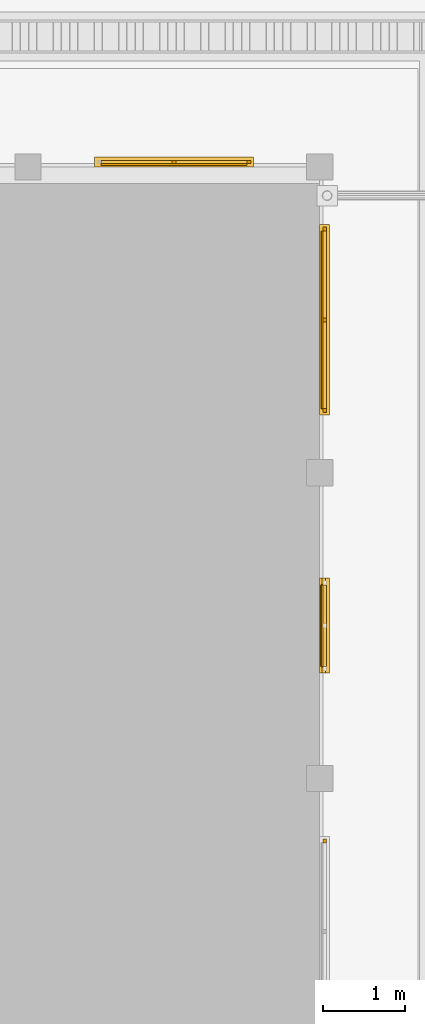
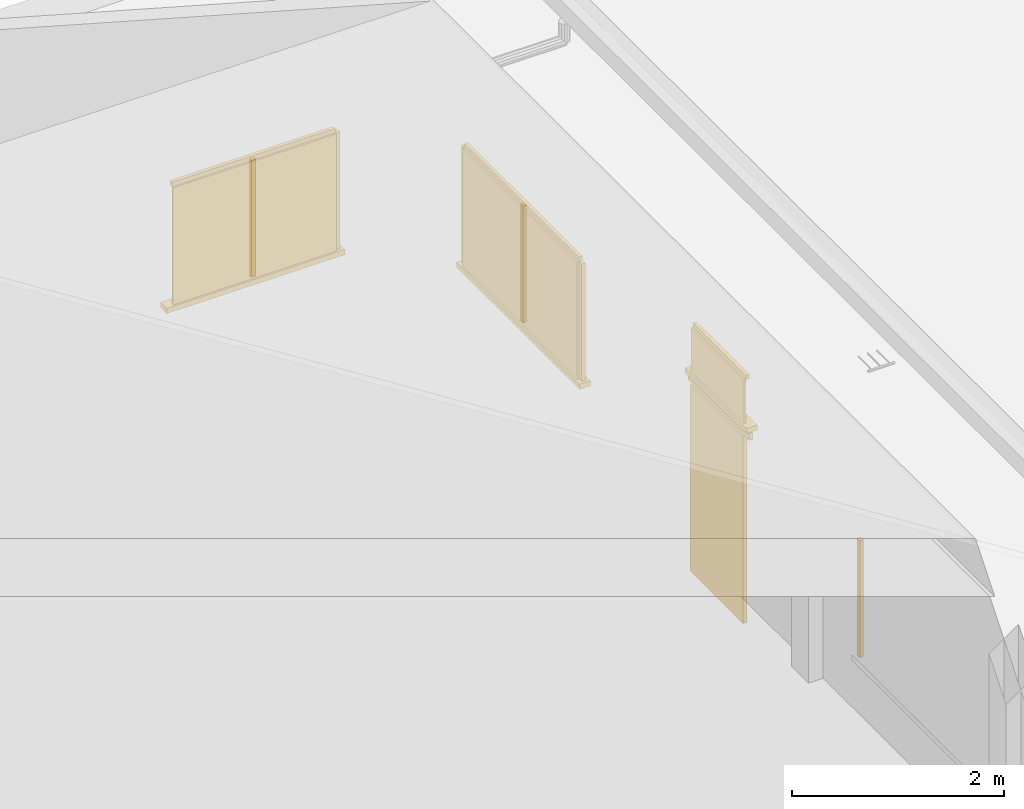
# One storey, part 44 of 166: 15 windows, 2 doors.
"""IFC2X3 building model written with IfcOpenShell, lengths in metres."""

from ifc_helpers import new_model, si_unit, origin, origin_with_axes, place, context, subcontext, project, spatial, faceted_brep, element, save


model = new_model("IFC2X3")

# Units and contexts
model_context = context("Model", 3, precision=1e-05, world=origin_with_axes())
body_context = subcontext(model_context, "Body", "Model", "MODEL_VIEW")
ifc_project = project(units=[si_unit("LENGTHUNIT", "METRE"), si_unit("AREAUNIT", "SQUARE_METRE"), si_unit("VOLUMEUNIT", "CUBIC_METRE"), si_unit("PLANEANGLEUNIT", "RADIAN")], contexts=[model_context])

# Site, building, storey
site_placement = place(None, origin_with_axes())
site = spatial("IfcSite", under=ifc_project, at=site_placement, Name="Predio Los Mangos - Morales, San Martín", CompositionType="ELEMENT")
building_placement = place(site_placement, origin())
building = spatial("IfcBuilding", under=site, at=building_placement, Name="Hogar de Refugio Temporal", CompositionType="ELEMENT")
storey_placement = place(building_placement, origin())
storey = spatial("IfcBuildingStorey", under=building, at=storey_placement, Name="NIVEL 1 (NPT +0.00)", CompositionType="ELEMENT", Elevation=0.0)

# Windows
window_1_placement = place(storey_placement, origin())
element("IfcWindow", 1, at=window_1_placement, inside=storey, Name="E-01_vg4_vid", ObjectType="Ventana", context=body_context, shape_type="Brep", body=[
    faceted_brep([(28.93, 48.72, 1.05), (28.93, 48.74, 1.05), (30.71, 48.74, 1.05), (30.71, 48.72, 1.05), (28.93, 48.72, 2.4), (30.71, 48.72, 2.4), (30.71, 48.74, 2.4), (28.93, 48.74, 2.4)], [[[0, 1, 2, 3]], [[4, 5, 6, 7]], [[0, 3, 5, 4]], [[3, 2, 6, 5]], [[2, 1, 7, 6]], [[1, 0, 4, 7]]]),
])
window_2_placement = place(storey_placement, origin())
element("IfcWindow", 2, at=window_2_placement, inside=storey, Name="E-01_vg4_m", ObjectType="Ventana", context=body_context, shape_type="Brep", body=[
    faceted_brep([(30.71, 48.74, 1.05), (30.71, 48.78, 1.05), (30.76, 48.78, 1.05), (30.76, 48.74, 1.05), (30.71, 48.74, 2.4), (30.76, 48.74, 2.4), (30.76, 48.78, 2.4), (30.71, 48.78, 2.4)], [[[0, 1, 2, 3]], [[4, 5, 6, 7]], [[0, 3, 5, 4]], [[3, 2, 6, 5]], [[2, 1, 7, 6]], [[1, 0, 4, 7]]]),
])
window_3_placement = place(storey_placement, origin())
element("IfcWindow", 3, at=window_3_placement, inside=storey, Name="E-01_vg4_m", ObjectType="Ventana", context=body_context, shape_type="Brep", body=[
    faceted_brep([(28.93, 48.74, 2.4), (28.93, 48.78, 2.4), (30.71, 48.78, 2.4), (30.71, 48.74, 2.4), (28.93, 48.74, 2.45), (30.71, 48.74, 2.45), (30.71, 48.78, 2.45), (28.93, 48.78, 2.45)], [[[0, 1, 2, 3]], [[4, 5, 6, 7]], [[0, 3, 5, 4]], [[3, 2, 6, 5]], [[2, 1, 7, 6]], [[1, 0, 4, 7]]]),
])
window_4_placement = place(storey_placement, origin())
element("IfcWindow", 4, at=window_4_placement, inside=storey, Name="E-01_vg4_m", ObjectType="Ventana", context=body_context, shape_type="Brep", body=[
    faceted_brep([(29.795, 48.74, 1.05), (29.795, 48.78, 1.05), (29.845, 48.78, 1.05), (29.845, 48.74, 1.05), (29.795, 48.74, 2.4), (29.845, 48.74, 2.4), (29.845, 48.78, 2.4), (29.795, 48.78, 2.4)], [[[0, 1, 2, 3]], [[4, 5, 6, 7]], [[0, 3, 5, 4]], [[3, 2, 6, 5]], [[2, 1, 7, 6]], [[1, 0, 4, 7]]]),
])
window_5_placement = place(storey_placement, origin())
element("IfcWindow", 5, at=window_5_placement, inside=storey, Name="E-01_vg4_alf", ObjectType="Ventana", context=body_context, shape_type="Brep", body=[
    faceted_brep([(28.85, 48.7, 0.99), (28.85, 48.82, 0.99), (30.79, 48.82, 0.99), (30.79, 48.7, 0.99), (28.85, 48.7, 1.05), (30.79, 48.7, 1.05), (30.79, 48.82, 1.05), (28.85, 48.82, 1.05)], [[[0, 1, 2, 3]], [[4, 5, 6, 7]], [[0, 3, 5, 4]], [[3, 2, 6, 5]], [[2, 1, 7, 6]], [[1, 0, 4, 7]]]),
])
window_6_placement = place(storey_placement, origin())
element("IfcWindow", 6, at=window_6_placement, inside=storey, Name="E-01_v3_m", ObjectType="Ventana", context=body_context, shape_type="Brep", body=[
    faceted_brep([(31.64, 40.4493, 1.05), (31.64, 40.4993, 1.05), (31.68, 40.4993, 1.05), (31.68, 40.4493, 1.05), (31.64, 40.4493, 2.4), (31.68, 40.4493, 2.4), (31.68, 40.4993, 2.4), (31.64, 40.4993, 2.4)], [[[0, 1, 2, 3]], [[4, 5, 6, 7]], [[0, 3, 5, 4]], [[3, 2, 6, 5]], [[2, 1, 7, 6]], [[1, 0, 4, 7]]]),
])

# Doors
door_1_placement = place(storey_placement, origin())
element("IfcDoor", 7, at=door_1_placement, inside=storey, Name="E-01_p4", ObjectType="Puerta", context=body_context, shape_type="Brep", body=[
    faceted_brep([(31.61, 42.6, 0.15), (31.61, 43.6, 0.15), (31.65, 43.6, 0.15), (31.65, 42.6, 0.15), (31.61, 42.6, 2.3), (31.65, 42.6, 2.3), (31.65, 43.6, 2.3), (31.61, 43.6, 2.3)], [[[0, 1, 2, 3]], [[4, 5, 6, 7]], [[0, 3, 5, 4]], [[3, 2, 6, 5]], [[2, 1, 7, 6]], [[1, 0, 4, 7]]]),
])
door_2_placement = place(storey_placement, origin())
element("IfcDoor", 8, at=door_2_placement, inside=storey, Name="E-01_p4_marco", ObjectType="Puerta", context=body_context, shape_type="Brep", body=[
    faceted_brep([(31.63, 42.52, 2.3), (31.63, 43.68, 2.3), (31.67, 43.68, 2.3), (31.67, 42.52, 2.3), (31.63, 42.52, 2.38), (31.67, 42.52, 2.38), (31.67, 43.68, 2.38), (31.63, 43.68, 2.38)], [[[0, 1, 2, 3]], [[4, 5, 6, 7]], [[0, 3, 5, 4]], [[3, 2, 6, 5]], [[2, 1, 7, 6]], [[1, 0, 4, 7]]]),
])

# Windows
window_7_placement = place(storey_placement, origin())
element("IfcWindow", 9, at=window_7_placement, inside=storey, Name="E-01_vt4_vid", ObjectType="Ventana", context=body_context, shape_type="Brep", body=[
    faceted_brep([(31.62, 42.6, 2.45), (31.62, 43.6, 2.45), (31.64, 43.6, 2.45), (31.64, 42.6, 2.45), (31.62, 42.6, 2.95), (31.64, 42.6, 2.95), (31.64, 43.6, 2.95), (31.62, 43.6, 2.95)], [[[0, 1, 2, 3]], [[4, 5, 6, 7]], [[0, 3, 5, 4]], [[3, 2, 6, 5]], [[2, 1, 7, 6]], [[1, 0, 4, 7]]]),
])
window_8_placement = place(storey_placement, origin())
element("IfcWindow", 10, at=window_8_placement, inside=storey, Name="E-01_vt4_m", ObjectType="Ventana", context=body_context, shape_type="Brep", body=[
    faceted_brep([(31.64, 42.6, 2.95), (31.64, 43.6, 2.95), (31.68, 43.6, 2.95), (31.68, 42.6, 2.95), (31.64, 42.6, 3.0), (31.68, 42.6, 3.0), (31.68, 43.6, 3.0), (31.64, 43.6, 3.0)], [[[0, 1, 2, 3]], [[4, 5, 6, 7]], [[0, 3, 5, 4]], [[3, 2, 6, 5]], [[2, 1, 7, 6]], [[1, 0, 4, 7]]]),
])
window_9_placement = place(storey_placement, origin())
element("IfcWindow", 11, at=window_9_placement, inside=storey, Name="E-01_vt4_alf", ObjectType="Ventana", context=body_context, shape_type="Brep", body=[
    faceted_brep([(31.6, 42.52, 2.39), (31.6, 43.68, 2.39), (31.72, 43.68, 2.39), (31.72, 42.52, 2.39), (31.6, 42.52, 2.45), (31.72, 42.52, 2.45), (31.72, 43.68, 2.45), (31.6, 43.68, 2.45)], [[[0, 1, 2, 3]], [[4, 5, 6, 7]], [[0, 3, 5, 4]], [[3, 2, 6, 5]], [[2, 1, 7, 6]], [[1, 0, 4, 7]]]),
])
window_10_placement = place(storey_placement, origin())
element("IfcWindow", 12, at=window_10_placement, inside=storey, Name="E-01_v5_vid", ObjectType="Ventana", context=body_context, shape_type="Brep", body=[
    faceted_brep([(31.62, 45.7507, 1.05), (31.62, 47.916, 1.05), (31.64, 47.916, 1.05), (31.64, 45.7507, 1.05), (31.62, 45.7507, 2.4), (31.64, 45.7507, 2.4), (31.64, 47.916, 2.4), (31.62, 47.916, 2.4)], [[[0, 1, 2, 3]], [[4, 5, 6, 7]], [[0, 3, 5, 4]], [[3, 2, 6, 5]], [[2, 1, 7, 6]], [[1, 0, 4, 7]]]),
])
window_11_placement = place(storey_placement, origin())
element("IfcWindow", 13, at=window_11_placement, inside=storey, Name="E-01_v5_m", ObjectType="Ventana", context=body_context, shape_type="Brep", body=[
    faceted_brep([(31.64, 45.7007, 1.05), (31.64, 45.7507, 1.05), (31.68, 45.7507, 1.05), (31.68, 45.7007, 1.05), (31.64, 45.7007, 2.4), (31.68, 45.7007, 2.4), (31.68, 45.7507, 2.4), (31.64, 45.7507, 2.4)], [[[0, 1, 2, 3]], [[4, 5, 6, 7]], [[0, 3, 5, 4]], [[3, 2, 6, 5]], [[2, 1, 7, 6]], [[1, 0, 4, 7]]]),
])
window_12_placement = place(storey_placement, origin())
element("IfcWindow", 14, at=window_12_placement, inside=storey, Name="E-01_v5_m", ObjectType="Ventana", context=body_context, shape_type="Brep", body=[
    faceted_brep([(31.64, 47.916, 1.05), (31.64, 47.966, 1.05), (31.68, 47.966, 1.05), (31.68, 47.916, 1.05), (31.64, 47.916, 2.4), (31.68, 47.916, 2.4), (31.68, 47.966, 2.4), (31.64, 47.966, 2.4)], [[[0, 1, 2, 3]], [[4, 5, 6, 7]], [[0, 3, 5, 4]], [[3, 2, 6, 5]], [[2, 1, 7, 6]], [[1, 0, 4, 7]]]),
])
window_13_placement = place(storey_placement, origin())
element("IfcWindow", 15, at=window_13_placement, inside=storey, Name="E-01_v5_m", ObjectType="Ventana", context=body_context, shape_type="Brep", body=[
    faceted_brep([(31.64, 45.7507, 2.4), (31.64, 47.916, 2.4), (31.68, 47.916, 2.4), (31.68, 45.7507, 2.4), (31.64, 45.7507, 2.45), (31.68, 45.7507, 2.45), (31.68, 47.916, 2.45), (31.64, 47.916, 2.45)], [[[0, 1, 2, 3]], [[4, 5, 6, 7]], [[0, 3, 5, 4]], [[3, 2, 6, 5]], [[2, 1, 7, 6]], [[1, 0, 4, 7]]]),
])
window_14_placement = place(storey_placement, origin())
element("IfcWindow", 16, at=window_14_placement, inside=storey, Name="E-01_v5_m", ObjectType="Ventana", context=body_context, shape_type="Brep", body=[
    faceted_brep([(31.64, 46.8083, 1.05), (31.64, 46.8583, 1.05), (31.68, 46.8583, 1.05), (31.68, 46.8083, 1.05), (31.64, 46.8083, 2.4), (31.68, 46.8083, 2.4), (31.68, 46.8583, 2.4), (31.64, 46.8583, 2.4)], [[[0, 1, 2, 3]], [[4, 5, 6, 7]], [[0, 3, 5, 4]], [[3, 2, 6, 5]], [[2, 1, 7, 6]], [[1, 0, 4, 7]]]),
])
window_15_placement = place(storey_placement, origin())
element("IfcWindow", 17, at=window_15_placement, inside=storey, Name="E-01_v5_alf", ObjectType="Ventana", context=body_context, shape_type="Brep", body=[
    faceted_brep([(31.6, 45.6707, 0.99), (31.6, 47.996, 0.99), (31.72, 47.996, 0.99), (31.72, 45.6707, 0.99), (31.6, 45.6707, 1.05), (31.72, 45.6707, 1.05), (31.72, 47.996, 1.05), (31.6, 47.996, 1.05)], [[[0, 1, 2, 3]], [[4, 5, 6, 7]], [[0, 3, 5, 4]], [[3, 2, 6, 5]], [[2, 1, 7, 6]], [[1, 0, 4, 7]]]),
])

save(model, "model.ifc")
